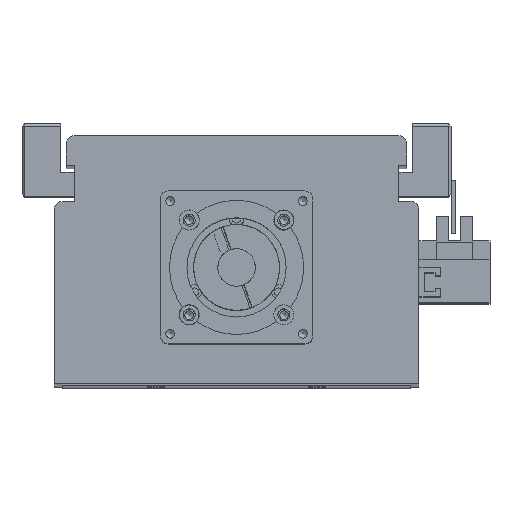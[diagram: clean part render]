
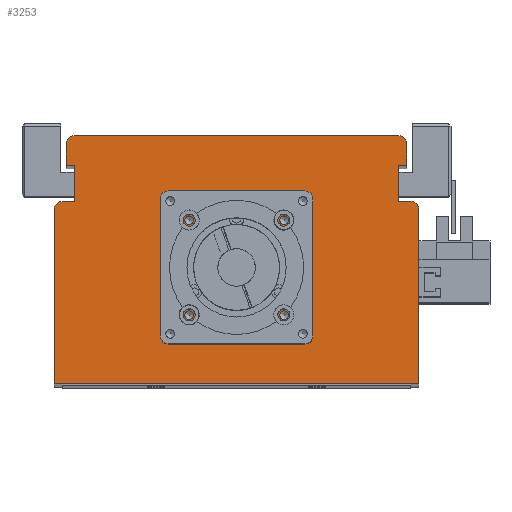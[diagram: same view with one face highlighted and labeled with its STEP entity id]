
A CAD part, top view. The second image highlights one B-rep face of the part: STEP entity #3253.
In plain terms, the highlighted planar face has unit normal (0, 0, 1).
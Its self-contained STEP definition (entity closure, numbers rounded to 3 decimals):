
#1811=CARTESIAN_POINT('',(19.321,61.5,695.0));
#1812=VERTEX_POINT('',#1811);
#1813=CARTESIAN_POINT('',(17.7,61.5,695.0));
#1814=DIRECTION('',(0.0,0.0,-1.0));
#1815=DIRECTION('',(1.0,0.0,0.0));
#1816=AXIS2_PLACEMENT_3D('',#1813,#1814,#1815);
#1817=CIRCLE('',#1816,1.621);
#1818=EDGE_CURVE('',#1812,#1812,#1817,.T.);
#1890=CARTESIAN_POINT('',(19.321,26.1,695.0));
#1891=VERTEX_POINT('',#1890);
#1892=CARTESIAN_POINT('',(17.7,26.1,695.0));
#1893=DIRECTION('',(0.0,0.0,-1.0));
#1894=DIRECTION('',(1.0,0.0,0.0));
#1895=AXIS2_PLACEMENT_3D('',#1892,#1893,#1894);
#1896=CIRCLE('',#1895,1.621);
#1897=EDGE_CURVE('',#1891,#1891,#1896,.T.);
#1969=CARTESIAN_POINT('',(-16.079,26.1,695.0));
#1970=VERTEX_POINT('',#1969);
#1971=CARTESIAN_POINT('',(-17.7,26.1,695.0));
#1972=DIRECTION('',(0.0,0.0,-1.0));
#1973=DIRECTION('',(1.0,0.0,0.0));
#1974=AXIS2_PLACEMENT_3D('',#1971,#1972,#1973);
#1975=CIRCLE('',#1974,1.621);
#1976=EDGE_CURVE('',#1970,#1970,#1975,.T.);
#2048=CARTESIAN_POINT('',(-16.079,61.5,695.0));
#2049=VERTEX_POINT('',#2048);
#2050=CARTESIAN_POINT('',(-17.7,61.5,695.0));
#2051=DIRECTION('',(0.0,0.0,-1.0));
#2052=DIRECTION('',(1.0,0.0,0.0));
#2053=AXIS2_PLACEMENT_3D('',#2050,#2051,#2052);
#2054=CIRCLE('',#2053,1.621);
#2055=EDGE_CURVE('',#2049,#2049,#2054,.T.);
#2089=CARTESIAN_POINT('',(26.5,43.8,695.0));
#2090=VERTEX_POINT('',#2089);
#2091=CARTESIAN_POINT('',(24.5,43.8,695.0));
#2092=DIRECTION('',(0.0,0.0,-1.0));
#2093=DIRECTION('',(1.0,0.0,0.0));
#2094=AXIS2_PLACEMENT_3D('',#2091,#2092,#2093);
#2095=CIRCLE('',#2094,2.0);
#2096=EDGE_CURVE('',#2090,#2090,#2095,.T.);
#2138=CARTESIAN_POINT('',(-22.5,43.8,695.0));
#2139=VERTEX_POINT('',#2138);
#2140=CARTESIAN_POINT('',(-24.5,43.8,695.0));
#2141=DIRECTION('',(0.0,0.0,-1.0));
#2142=DIRECTION('',(1.0,0.0,0.0));
#2143=AXIS2_PLACEMENT_3D('',#2140,#2141,#2142);
#2144=CIRCLE('',#2143,2.0);
#2145=EDGE_CURVE('',#2139,#2139,#2144,.T.);
#3069=CARTESIAN_POINT('',(21.05,43.8,695.0));
#3070=VERTEX_POINT('',#3069);
#3071=CARTESIAN_POINT('',(0.0,43.8,695.0));
#3072=DIRECTION('',(0.0,0.0,-1.0));
#3073=DIRECTION('',(-1.0,0.0,0.0));
#3074=AXIS2_PLACEMENT_3D('',#3071,#3072,#3073);
#3075=CIRCLE('',#3074,21.05);
#3076=EDGE_CURVE('',#3070,#3070,#3075,.T.);
#3093=CARTESIAN_POINT('',(0.,29.533,695.0));
#3094=DIRECTION('',(0.0,0.0,1.0));
#3095=DIRECTION('',(1.0,0.0,0.0));
#3096=AXIS2_PLACEMENT_3D('',#3093,#3094,#3095);
#3097=PLANE('',#3096);
#3098=CARTESIAN_POINT('',(-65.,68.5,695.0));
#3099=VERTEX_POINT('',#3098);
#3100=CARTESIAN_POINT('',(-60.5,68.5,695.));
#3101=VERTEX_POINT('',#3100);
#3102=CARTESIAN_POINT('',(-65.,68.5,695.0));
#3103=DIRECTION('',(1.0,0.0,0.0));
#3104=VECTOR('',#3103,4.5);
#3105=LINE('',#3102,#3104);
#3106=EDGE_CURVE('',#3099,#3101,#3105,.T.);
#3107=ORIENTED_EDGE('',*,*,#3106,.F.);
#3108=CARTESIAN_POINT('',(-68.,65.5,695.0));
#3109=VERTEX_POINT('',#3108);
#3110=CARTESIAN_POINT('',(-65.,65.5,695.0));
#3111=DIRECTION('',(0.0,0.0,-1.0));
#3112=DIRECTION('',(0.0,1.0,0.0));
#3113=AXIS2_PLACEMENT_3D('',#3110,#3111,#3112);
#3114=CIRCLE('',#3113,3.);
#3115=EDGE_CURVE('',#3109,#3099,#3114,.T.);
#3116=ORIENTED_EDGE('',*,*,#3115,.F.);
#3117=CARTESIAN_POINT('',(-68.0,0.5,695.0));
#3118=VERTEX_POINT('',#3117);
#3119=CARTESIAN_POINT('',(-68.0,0.5,695.0));
#3120=DIRECTION('',(0.0,1.0,0.0));
#3121=VECTOR('',#3120,65.0);
#3122=LINE('',#3119,#3121);
#3123=EDGE_CURVE('',#3118,#3109,#3122,.T.);
#3124=ORIENTED_EDGE('',*,*,#3123,.F.);
#3125=CARTESIAN_POINT('',(68.0,0.5,695.0));
#3126=VERTEX_POINT('',#3125);
#3127=CARTESIAN_POINT('',(68.0,0.5,695.0));
#3128=DIRECTION('',(-1.0,0.0,0.0));
#3129=VECTOR('',#3128,136.0);
#3130=LINE('',#3127,#3129);
#3131=EDGE_CURVE('',#3126,#3118,#3130,.T.);
#3132=ORIENTED_EDGE('',*,*,#3131,.F.);
#3133=CARTESIAN_POINT('',(68.0,65.5,695.0));
#3134=VERTEX_POINT('',#3133);
#3135=CARTESIAN_POINT('',(68.0,65.5,695.0));
#3136=DIRECTION('',(0.0,-1.0,0.0));
#3137=VECTOR('',#3136,65.0);
#3138=LINE('',#3135,#3137);
#3139=EDGE_CURVE('',#3134,#3126,#3138,.T.);
#3140=ORIENTED_EDGE('',*,*,#3139,.F.);
#3141=CARTESIAN_POINT('',(65.,68.5,695.0));
#3142=VERTEX_POINT('',#3141);
#3143=CARTESIAN_POINT('',(65.,65.5,695.0));
#3144=DIRECTION('',(0.0,0.0,-1.0));
#3145=DIRECTION('',(1.0,0.0,0.0));
#3146=AXIS2_PLACEMENT_3D('',#3143,#3144,#3145);
#3147=CIRCLE('',#3146,3.);
#3148=EDGE_CURVE('',#3142,#3134,#3147,.T.);
#3149=ORIENTED_EDGE('',*,*,#3148,.F.);
#3150=CARTESIAN_POINT('',(60.5,68.5,695.));
#3151=VERTEX_POINT('',#3150);
#3152=CARTESIAN_POINT('',(60.5,68.5,695.));
#3153=DIRECTION('',(1.0,0.0,0.0));
#3154=VECTOR('',#3153,4.5);
#3155=LINE('',#3152,#3154);
#3156=EDGE_CURVE('',#3151,#3142,#3155,.T.);
#3157=ORIENTED_EDGE('',*,*,#3156,.F.);
#3158=CARTESIAN_POINT('',(60.5,82.,695.));
#3159=VERTEX_POINT('',#3158);
#3160=CARTESIAN_POINT('',(60.5,82.,695.));
#3161=DIRECTION('',(0.0,-1.0,0.0));
#3162=VECTOR('',#3161,13.5);
#3163=LINE('',#3160,#3162);
#3164=EDGE_CURVE('',#3159,#3151,#3163,.T.);
#3165=ORIENTED_EDGE('',*,*,#3164,.F.);
#3166=CARTESIAN_POINT('',(63.5,82.,695.));
#3167=VERTEX_POINT('',#3166);
#3168=CARTESIAN_POINT('',(63.5,82.,695.));
#3169=DIRECTION('',(-1.0,0.0,0.0));
#3170=VECTOR('',#3169,3.0);
#3171=LINE('',#3168,#3170);
#3172=EDGE_CURVE('',#3167,#3159,#3171,.T.);
#3173=ORIENTED_EDGE('',*,*,#3172,.F.);
#3174=CARTESIAN_POINT('',(63.5,90.0,695.));
#3175=VERTEX_POINT('',#3174);
#3176=CARTESIAN_POINT('',(63.5,90.0,695.));
#3177=DIRECTION('',(0.0,-1.0,0.0));
#3178=VECTOR('',#3177,8.);
#3179=LINE('',#3176,#3178);
#3180=EDGE_CURVE('',#3175,#3167,#3179,.T.);
#3181=ORIENTED_EDGE('',*,*,#3180,.F.);
#3182=CARTESIAN_POINT('',(60.5,93.,695.));
#3183=VERTEX_POINT('',#3182);
#3184=CARTESIAN_POINT('',(60.5,90.0,695.0));
#3185=DIRECTION('',(0.0,0.0,-1.0));
#3186=DIRECTION('',(1.0,0.0,0.0));
#3187=AXIS2_PLACEMENT_3D('',#3184,#3185,#3186);
#3188=CIRCLE('',#3187,3.);
#3189=EDGE_CURVE('',#3183,#3175,#3188,.T.);
#3190=ORIENTED_EDGE('',*,*,#3189,.F.);
#3191=CARTESIAN_POINT('',(-60.5,93.0,695.));
#3192=VERTEX_POINT('',#3191);
#3193=CARTESIAN_POINT('',(-60.5,93.0,695.));
#3194=DIRECTION('',(1.0,0.0,0.0));
#3195=VECTOR('',#3194,121.0);
#3196=LINE('',#3193,#3195);
#3197=EDGE_CURVE('',#3192,#3183,#3196,.T.);
#3198=ORIENTED_EDGE('',*,*,#3197,.F.);
#3199=CARTESIAN_POINT('',(-63.5,90.0,695.));
#3200=VERTEX_POINT('',#3199);
#3201=CARTESIAN_POINT('',(-60.5,90.0,695.0));
#3202=DIRECTION('',(0.0,0.0,-1.0));
#3203=DIRECTION('',(0.0,1.0,0.0));
#3204=AXIS2_PLACEMENT_3D('',#3201,#3202,#3203);
#3205=CIRCLE('',#3204,3.);
#3206=EDGE_CURVE('',#3200,#3192,#3205,.T.);
#3207=ORIENTED_EDGE('',*,*,#3206,.F.);
#3208=CARTESIAN_POINT('',(-63.5,82.,695.));
#3209=VERTEX_POINT('',#3208);
#3210=CARTESIAN_POINT('',(-63.5,82.,695.));
#3211=DIRECTION('',(0.0,1.0,0.0));
#3212=VECTOR('',#3211,8.);
#3213=LINE('',#3210,#3212);
#3214=EDGE_CURVE('',#3209,#3200,#3213,.T.);
#3215=ORIENTED_EDGE('',*,*,#3214,.F.);
#3216=CARTESIAN_POINT('',(-60.5,82.,695.));
#3217=VERTEX_POINT('',#3216);
#3218=CARTESIAN_POINT('',(-60.5,82.,695.));
#3219=DIRECTION('',(-1.0,0.0,0.0));
#3220=VECTOR('',#3219,3.);
#3221=LINE('',#3218,#3220);
#3222=EDGE_CURVE('',#3217,#3209,#3221,.T.);
#3223=ORIENTED_EDGE('',*,*,#3222,.F.);
#3224=CARTESIAN_POINT('',(-60.5,68.5,695.));
#3225=DIRECTION('',(0.0,1.0,0.0));
#3226=VECTOR('',#3225,13.5);
#3227=LINE('',#3224,#3226);
#3228=EDGE_CURVE('',#3101,#3217,#3227,.T.);
#3229=ORIENTED_EDGE('',*,*,#3228,.F.);
#3230=EDGE_LOOP('',(#3107,#3116,#3124,#3132,#3140,#3149,#3157,#3165,#3173,#3181,#3190,#3198,#3207,#3215,#3223,#3229));
#3231=FACE_OUTER_BOUND('',#3230,.T.);
#3232=ORIENTED_EDGE('',*,*,#1818,.T.);
#3233=EDGE_LOOP('',(#3232));
#3234=FACE_BOUND('',#3233,.T.);
#3235=ORIENTED_EDGE('',*,*,#1897,.T.);
#3236=EDGE_LOOP('',(#3235));
#3237=FACE_BOUND('',#3236,.T.);
#3238=ORIENTED_EDGE('',*,*,#1976,.T.);
#3239=EDGE_LOOP('',(#3238));
#3240=FACE_BOUND('',#3239,.T.);
#3241=ORIENTED_EDGE('',*,*,#2055,.T.);
#3242=EDGE_LOOP('',(#3241));
#3243=FACE_BOUND('',#3242,.T.);
#3244=ORIENTED_EDGE('',*,*,#2096,.T.);
#3245=EDGE_LOOP('',(#3244));
#3246=FACE_BOUND('',#3245,.T.);
#3247=ORIENTED_EDGE('',*,*,#2145,.T.);
#3248=EDGE_LOOP('',(#3247));
#3249=FACE_BOUND('',#3248,.T.);
#3250=ORIENTED_EDGE('',*,*,#3076,.T.);
#3251=EDGE_LOOP('',(#3250));
#3252=FACE_BOUND('',#3251,.T.);
#3253=ADVANCED_FACE('',(#3231,#3234,#3237,#3240,#3243,#3246,#3249,#3252),#3097,.T.);
